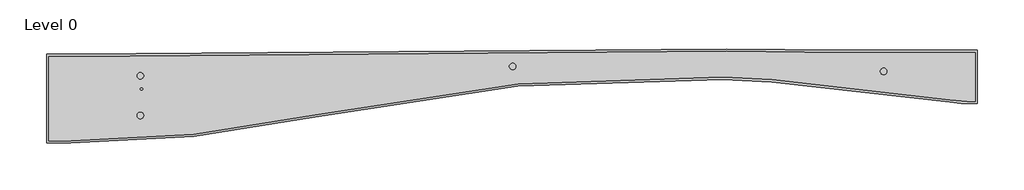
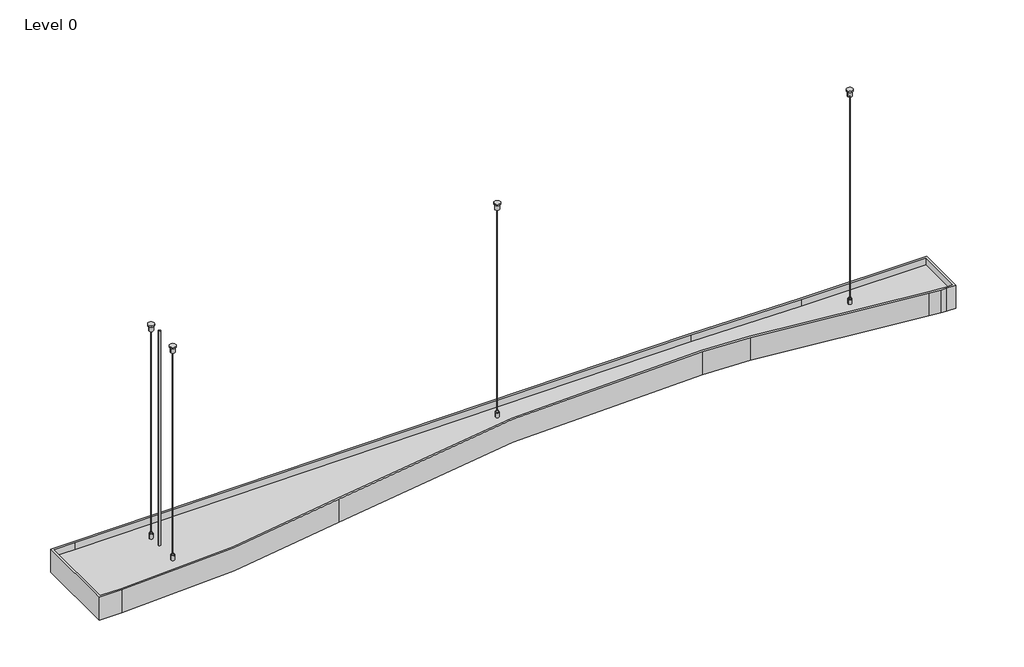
# One storey: 1 light fixture.
"""IFC4 building model written with IfcOpenShell, lengths in millimetres."""

from ifc_helpers import new_model, si_unit, origin, place, context, project, spatial, transform, mapped, element, save
from components import silver_anodized_3000_k_4380_lm_e77bd729

model = new_model("IFC4")

# Units and contexts
model_context = context("Model", 3, world=origin())
ifc_project = project(units=[si_unit("LENGTHUNIT", "METRE", prefix="MILLI")], contexts=[model_context])

# Site, building, storey
site = spatial("IfcSite", under=ifc_project)
building = spatial("IfcBuilding", under=site)
storey = spatial("IfcBuildingStorey", under=building, Name="Level 0", Elevation=0.0)

# Light fixture
placement = place(None, origin())
silver_anodized_3000_k_4380_lm_shape = silver_anodized_3000_k_4380_lm_e77bd729(model_context)
element("IfcLightFixture", 1, ObjectType="KLUŚ - MIFOR - MI-WAVE-03 : Silver anodized - 3000 K - 4380 lm", at=placement, inside=storey, context=model_context, shape_type="MappedRepresentation", body=[
    mapped(silver_anodized_3000_k_4380_lm_shape, transform((0.0, 0.0, 555.0), x_axis=(1.0, 0.0, 0.0), y_axis=(0.0, -1.0, 0.0), z_axis=(0.0, 0.0, -1.0))),
])

save(model, "model.ifc")
